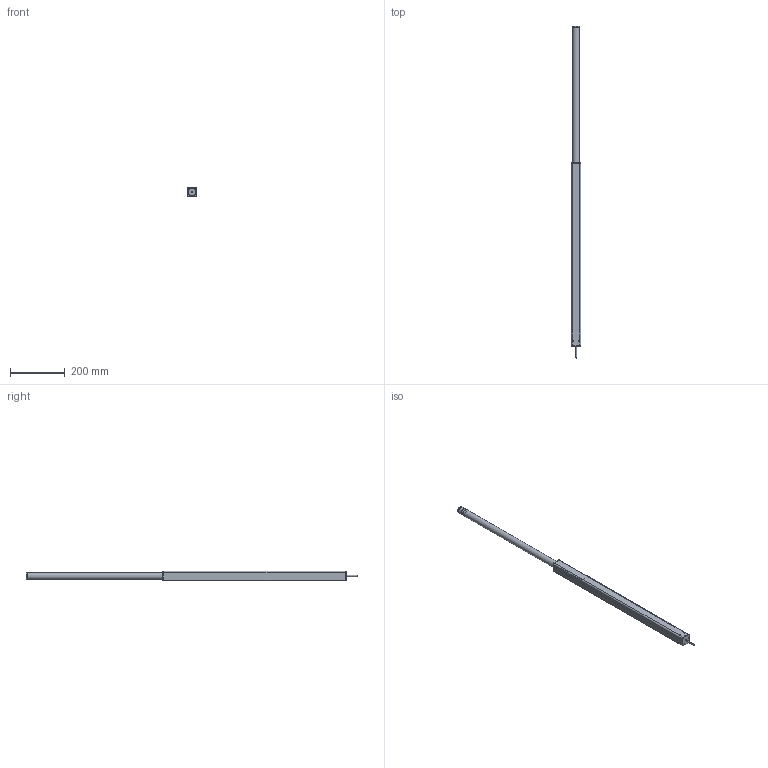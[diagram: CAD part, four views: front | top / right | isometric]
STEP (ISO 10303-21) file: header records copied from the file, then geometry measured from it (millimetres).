
FILE_DESCRIPTION(/* description */ ('Unknown'),/* implementation_level */ '2;1');
FILE_NAME(/* name */ '106.00005 Lineareinheit LA 1450_ausgefahren',/* time_stamp */ '2017-08-23T16:49:16+02:00',/* author */ ('Unknown'),/* organization */ ('Unknown'),/* preprocessor_version */ 'ST-DEVELOPER v16.7',/* originating_system */ 'DEX',/* authorisation */ $);
FILE_SCHEMA (('AUTOMOTIVE_DESIGN {1 0 10303 214 3 1 1}'));
Products named in the file (9): 106.00005; 119.00005; 142.00014; 115.00001; 142.00011; 122.00018; 125.00051; 123.00005; 113.00002_70mm
Assembly tree (9 placements, depth 2):
  106.00005
    119.00005
    142.00014  x2
    115.00001
    142.00011
    122.00018
    125.00051
    123.00005
    113.00002_70mm
Bounding box: 35 x 1213.5 x 35 mm (x, y, z)
Volume: 440100.4 mm3; surface area: 294782.2 mm2
Topology: 8 solids, 8 shells, 776 faces, 1818 edges, 1082 vertices
Faces by surface type: cylinder 273, bspline 224, plane 204, cone 36, torus 27, sphere 12
Full cylindrical faces by diameter (mm): 2.2 x1, 4 x7, 4.134 x4, 5 x1, 6.647 x1, 8.376 x1, 17.3 x1, 19 x1, 20.8 x3, 21 x1, 25 x1, 28.3 x1, 30.4 x1, 30.63 x1
Entity records: 74513 total; most frequent: CARTESIAN_POINT 58862, ORIENTED_EDGE 3422, DIRECTION 2541, EDGE_CURVE 1711, VERTEX_POINT 1037, AXIS2_PLACEMENT_3D 983, EDGE_LOOP 858, FACE_BOUND 858
